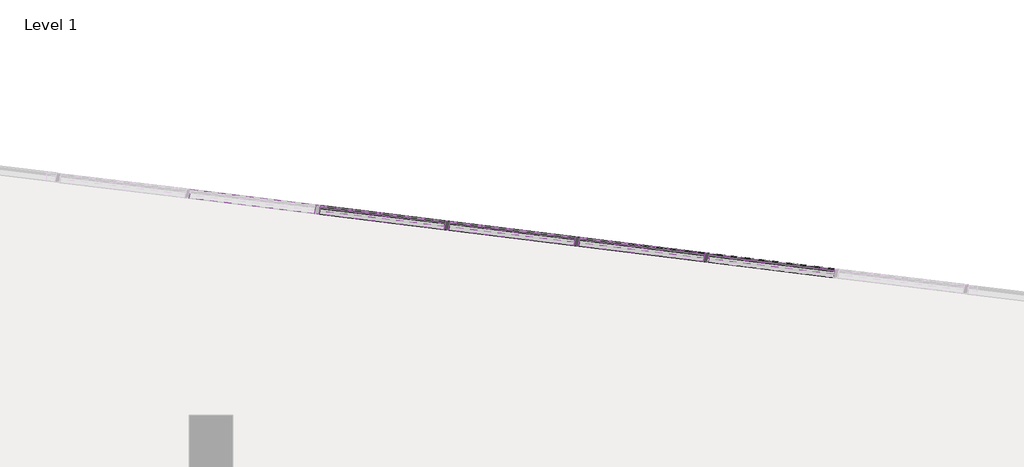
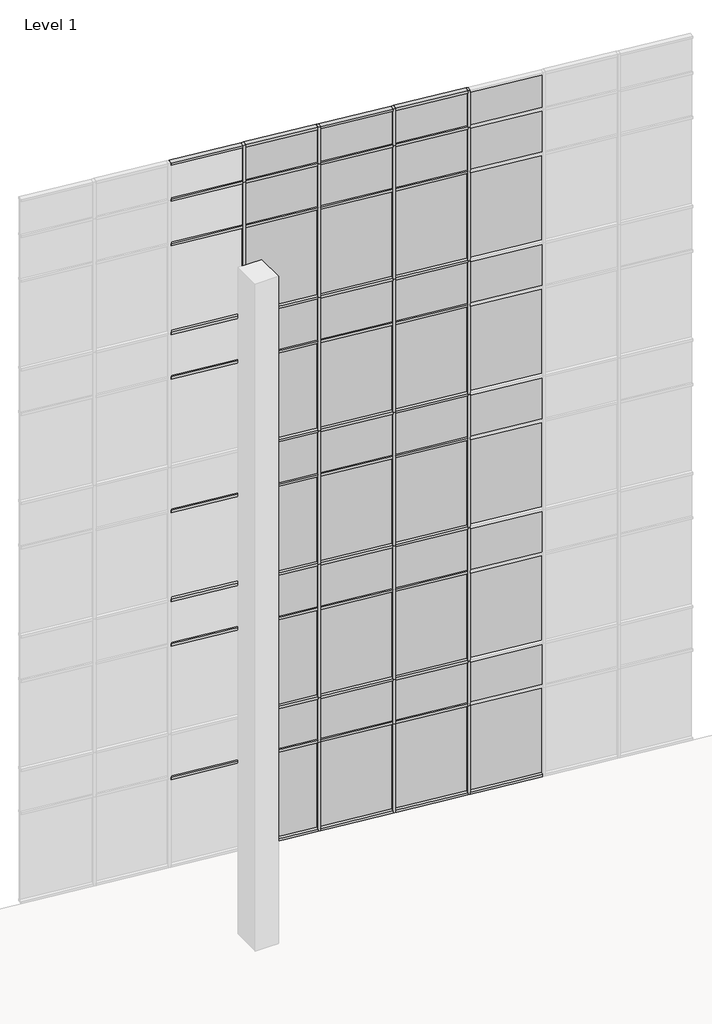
# One storey, part 19 of 23: 73 members, 44 plates.
"""IFC4 building model written with IfcOpenShell, lengths in millimetres."""

from ifc_helpers import new_model, si_unit, origin, place, context, project, spatial, transform, mapped, element, save
from components import member_2b49869a, member_f92b8aa2, member_810865a4, member_f0fea5a5, member_6d5c3e5e, member_9764dd38, system_panel_glazed_14c75400, system_panel_solid_5dfe6f83, system_panel_solid_e25e2004, system_panel_solid_b7551183

model = new_model("IFC4")

# Units and contexts
model_context = context("Model", 3, world=origin())
ifc_project = project(units=[si_unit("LENGTHUNIT", "METRE", prefix="MILLI")], contexts=[model_context])

# Site, building, storey
site = spatial("IfcSite", under=ifc_project)
building = spatial("IfcBuilding", under=site)
storey = spatial("IfcBuildingStorey", under=building, Name="Level 1", Elevation=0.0)

# Members
placement = place(None, origin())
member_shape = member_2b49869a(model_context)
element("IfcMember", 1, ObjectType="Rectangular Mullion : 2.5\" x 5\" rectangular", at=placement, inside=storey, context=model_context, shape_type="MappedRepresentation", body=[
    mapped(member_shape, transform((-5700.4995571, 12571.2945117, 2438.4), x_axis=(0.9925461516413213, -0.12186934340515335, 0.0), y_axis=(-0.12186934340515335, -0.9925461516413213, 0.0), z_axis=(0.0, 0.0, -1.0))),
])
element("IfcMember", 2, ObjectType="Rectangular Mullion : 2.5\" x 5\" rectangular", at=placement, inside=storey, context=model_context, shape_type="MappedRepresentation", body=[
    mapped(member_shape, transform((-2070.1627529, 12125.5452013, 2438.4), x_axis=(0.9925461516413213, -0.12186934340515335, 0.0), y_axis=(-0.12186934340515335, -0.9925461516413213, 0.0), z_axis=(0.0, 0.0, -1.0))),
])
element("IfcMember", 3, ObjectType="Rectangular Mullion : 2.5\" x 5\" rectangular", at=placement, inside=storey, context=model_context, shape_type="MappedRepresentation", body=[
    mapped(member_shape, transform((-3885.331155, 12348.4198565, 2438.4), x_axis=(0.9925461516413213, -0.12186934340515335, 0.0), y_axis=(-0.12186934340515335, -0.9925461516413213, 0.0), z_axis=(0.0, 0.0, -1.0))),
])
member_2_shape = member_f92b8aa2(model_context)
element("IfcMember", 4, ObjectType="Rectangular Mullion : 2.5\" x 5\" rectangular", at=placement, inside=storey, context=model_context, shape_type="MappedRepresentation", body=[
    mapped(member_2_shape, transform((-5700.4995571, 12571.2945117, 18288.0), x_axis=(0.9925461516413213, -0.12186934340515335, 0.0), y_axis=(-0.12186934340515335, -0.9925461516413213, 0.0), z_axis=(0.0, 0.0, -1.0))),
])
element("IfcMember", 5, ObjectType="Rectangular Mullion : 2.5\" x 5\" rectangular", at=placement, inside=storey, context=model_context, shape_type="MappedRepresentation", body=[
    mapped(member_2_shape, transform((-7515.6679592, 12794.169167, 18288.0), x_axis=(0.9925461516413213, -0.12186934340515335, 0.0), y_axis=(-0.12186934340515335, -0.9925461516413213, 0.0), z_axis=(0.0, 0.0, -1.0))),
])
element("IfcMember", 6, ObjectType="Rectangular Mullion : 2.5\" x 5\" rectangular", at=placement, inside=storey, context=model_context, shape_type="MappedRepresentation", body=[
    mapped(member_2_shape, transform((-2070.1627529, 12125.5452013, 18288.0), x_axis=(0.9925461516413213, -0.12186934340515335, 0.0), y_axis=(-0.12186934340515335, -0.9925461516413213, 0.0), z_axis=(0.0, 0.0, -1.0))),
])
element("IfcMember", 7, ObjectType="Rectangular Mullion : 2.5\" x 5\" rectangular", at=placement, inside=storey, context=model_context, shape_type="MappedRepresentation", body=[
    mapped(member_2_shape, transform((-3885.331155, 12348.4198565, 18288.0), x_axis=(0.9925461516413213, -0.12186934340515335, 0.0), y_axis=(-0.12186934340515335, -0.9925461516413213, 0.0), z_axis=(0.0, 0.0, -1.0))),
])
member_3_shape = member_810865a4(model_context)
element("IfcMember", 8, ObjectType="Rectangular Mullion : 2.5\" x 5\" rectangular", at=placement, inside=storey, context=model_context, shape_type="MappedRepresentation", body=[
    mapped(member_3_shape, transform((-3885.331155, 12348.4198565, 7315.2), x_axis=(0.9925461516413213, -0.12186934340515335, 0.0), y_axis=(-0.12186934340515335, -0.9925461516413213, 0.0), z_axis=(0.0, 0.0, -1.0))),
])
element("IfcMember", 9, ObjectType="Rectangular Mullion : 2.5\" x 5\" rectangular", at=placement, inside=storey, context=model_context, shape_type="MappedRepresentation", body=[
    mapped(member_3_shape, transform((-3885.331155, 12348.4198565, 3657.6), x_axis=(0.9925461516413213, -0.12186934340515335, 0.0), y_axis=(-0.12186934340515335, -0.9925461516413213, 0.0), z_axis=(0.0, 0.0, -1.0))),
])
element("IfcMember", 10, ObjectType="Rectangular Mullion : 2.5\" x 5\" rectangular", at=placement, inside=storey, context=model_context, shape_type="MappedRepresentation", body=[
    mapped(member_3_shape, transform((-5700.4995571, 12571.2945117, 14630.4), x_axis=(0.9925461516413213, -0.12186934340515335, 0.0), y_axis=(-0.12186934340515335, -0.9925461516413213, 0.0), z_axis=(0.0, 0.0, -1.0))),
])
element("IfcMember", 11, ObjectType="Rectangular Mullion : 2.5\" x 5\" rectangular", at=placement, inside=storey, context=model_context, shape_type="MappedRepresentation", body=[
    mapped(member_3_shape, transform((-5700.4995571, 12571.2945117, 10972.8), x_axis=(0.9925461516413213, -0.12186934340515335, 0.0), y_axis=(-0.12186934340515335, -0.9925461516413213, 0.0), z_axis=(0.0, 0.0, -1.0))),
])
element("IfcMember", 12, ObjectType="Rectangular Mullion : 2.5\" x 5\" rectangular", at=placement, inside=storey, context=model_context, shape_type="MappedRepresentation", body=[
    mapped(member_3_shape, transform((-5700.4995571, 12571.2945117, 7315.2), x_axis=(0.9925461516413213, -0.12186934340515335, 0.0), y_axis=(-0.12186934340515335, -0.9925461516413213, 0.0), z_axis=(0.0, 0.0, -1.0))),
])
element("IfcMember", 13, ObjectType="Rectangular Mullion : 2.5\" x 5\" rectangular", at=placement, inside=storey, context=model_context, shape_type="MappedRepresentation", body=[
    mapped(member_3_shape, transform((-5700.4995571, 12571.2945117, 3657.6), x_axis=(0.9925461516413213, -0.12186934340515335, 0.0), y_axis=(-0.12186934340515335, -0.9925461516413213, 0.0), z_axis=(0.0, 0.0, -1.0))),
])
element("IfcMember", 14, ObjectType="Rectangular Mullion : 2.5\" x 5\" rectangular", at=placement, inside=storey, context=model_context, shape_type="MappedRepresentation", body=[
    mapped(member_3_shape, transform((-7515.6679592, 12794.169167, 14630.4), x_axis=(0.9925461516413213, -0.12186934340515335, 0.0), y_axis=(-0.12186934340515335, -0.9925461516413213, 0.0), z_axis=(0.0, 0.0, -1.0))),
])
element("IfcMember", 15, ObjectType="Rectangular Mullion : 2.5\" x 5\" rectangular", at=placement, inside=storey, context=model_context, shape_type="MappedRepresentation", body=[
    mapped(member_3_shape, transform((-7515.6679592, 12794.169167, 10972.8), x_axis=(0.9925461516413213, -0.12186934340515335, 0.0), y_axis=(-0.12186934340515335, -0.9925461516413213, 0.0), z_axis=(0.0, 0.0, -1.0))),
])
element("IfcMember", 16, ObjectType="Rectangular Mullion : 2.5\" x 5\" rectangular", at=placement, inside=storey, context=model_context, shape_type="MappedRepresentation", body=[
    mapped(member_3_shape, transform((-7515.6679592, 12794.169167, 7315.2), x_axis=(0.9925461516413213, -0.12186934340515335, 0.0), y_axis=(-0.12186934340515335, -0.9925461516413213, 0.0), z_axis=(0.0, 0.0, -1.0))),
])
element("IfcMember", 17, ObjectType="Rectangular Mullion : 2.5\" x 5\" rectangular", at=placement, inside=storey, context=model_context, shape_type="MappedRepresentation", body=[
    mapped(member_3_shape, transform((-7515.6679592, 12794.169167, 3657.6), x_axis=(0.9925461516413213, -0.12186934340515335, 0.0), y_axis=(-0.12186934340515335, -0.9925461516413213, 0.0), z_axis=(0.0, 0.0, -1.0))),
])
element("IfcMember", 18, ObjectType="Rectangular Mullion : 2.5\" x 5\" rectangular", at=placement, inside=storey, context=model_context, shape_type="MappedRepresentation", body=[
    mapped(member_3_shape, transform((-2070.1627529, 12125.5452013, 14630.4), x_axis=(0.9925461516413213, -0.12186934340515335, 0.0), y_axis=(-0.12186934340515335, -0.9925461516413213, 0.0), z_axis=(0.0, 0.0, -1.0))),
])
element("IfcMember", 19, ObjectType="Rectangular Mullion : 2.5\" x 5\" rectangular", at=placement, inside=storey, context=model_context, shape_type="MappedRepresentation", body=[
    mapped(member_3_shape, transform((-2070.1627529, 12125.5452013, 10972.8), x_axis=(0.9925461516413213, -0.12186934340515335, 0.0), y_axis=(-0.12186934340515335, -0.9925461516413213, 0.0), z_axis=(0.0, 0.0, -1.0))),
])
element("IfcMember", 20, ObjectType="Rectangular Mullion : 2.5\" x 5\" rectangular", at=placement, inside=storey, context=model_context, shape_type="MappedRepresentation", body=[
    mapped(member_3_shape, transform((-2070.1627529, 12125.5452013, 7315.2), x_axis=(0.9925461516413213, -0.12186934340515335, 0.0), y_axis=(-0.12186934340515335, -0.9925461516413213, 0.0), z_axis=(0.0, 0.0, -1.0))),
])
element("IfcMember", 21, ObjectType="Rectangular Mullion : 2.5\" x 5\" rectangular", at=placement, inside=storey, context=model_context, shape_type="MappedRepresentation", body=[
    mapped(member_3_shape, transform((-2070.1627529, 12125.5452013, 3657.6), x_axis=(0.9925461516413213, -0.12186934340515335, 0.0), y_axis=(-0.12186934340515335, -0.9925461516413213, 0.0), z_axis=(0.0, 0.0, -1.0))),
])
element("IfcMember", 22, ObjectType="Rectangular Mullion : 2.5\" x 5\" rectangular", at=placement, inside=storey, context=model_context, shape_type="MappedRepresentation", body=[
    mapped(member_3_shape, transform((-3885.331155, 12348.4198565, 14630.4), x_axis=(0.9925461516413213, -0.12186934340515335, 0.0), y_axis=(-0.12186934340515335, -0.9925461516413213, 0.0), z_axis=(0.0, 0.0, -1.0))),
])
element("IfcMember", 23, ObjectType="Rectangular Mullion : 2.5\" x 5\" rectangular", at=placement, inside=storey, context=model_context, shape_type="MappedRepresentation", body=[
    mapped(member_3_shape, transform((-3885.331155, 12348.4198565, 10972.8), x_axis=(0.9925461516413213, -0.12186934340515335, 0.0), y_axis=(-0.12186934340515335, -0.9925461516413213, 0.0), z_axis=(0.0, 0.0, -1.0))),
])
member_4_shape = member_f0fea5a5(model_context)
element("IfcMember", 24, ObjectType="Rectangular Mullion : 2.5\" x 5\" rectangular", at=placement, inside=storey, context=model_context, shape_type="MappedRepresentation", body=[
    mapped(member_4_shape, transform((-3885.331155, 12348.4198565, 0.0), x_axis=(0.9925461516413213, -0.12186934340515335, 0.0), y_axis=(-0.12186934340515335, -0.9925461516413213, 0.0), z_axis=(0.0, 0.0, -1.0))),
])
element("IfcMember", 25, ObjectType="Rectangular Mullion : 2.5\" x 5\" rectangular", at=placement, inside=storey, context=model_context, shape_type="MappedRepresentation", body=[
    mapped(member_4_shape, transform((-5700.4995571, 12571.2945117, 0.0), x_axis=(0.9925461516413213, -0.12186934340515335, 0.0), y_axis=(-0.12186934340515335, -0.9925461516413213, 0.0), z_axis=(0.0, 0.0, -1.0))),
])
element("IfcMember", 26, ObjectType="Rectangular Mullion : 2.5\" x 5\" rectangular", at=placement, inside=storey, context=model_context, shape_type="MappedRepresentation", body=[
    mapped(member_4_shape, transform((-2070.1627529, 12125.5452013, 0.0), x_axis=(0.9925461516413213, -0.12186934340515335, 0.0), y_axis=(-0.12186934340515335, -0.9925461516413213, 0.0), z_axis=(0.0, 0.0, -1.0))),
])
element("IfcMember", 27, ObjectType="Rectangular Mullion : 2.5\" x 5\" rectangular", at=placement, inside=storey, context=model_context, shape_type="MappedRepresentation", body=[
    mapped(member_shape, transform((-7515.6679592, 12794.169167, 2438.4), x_axis=(0.9925461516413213, -0.12186934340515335, 0.0), y_axis=(-0.12186934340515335, -0.9925461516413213, 0.0), z_axis=(0.0, 0.0, -1.0))),
])
member_5_shape = member_6d5c3e5e(model_context)
element("IfcMember", 28, ObjectType="Rectangular Mullion : 2.5\" x 5\" rectangular", at=placement, inside=storey, context=model_context, shape_type="MappedRepresentation", body=[
    mapped(member_5_shape, transform((-2101.6760932, 12129.414553, 19304.0), x_axis=(0.0, 0.0, 1.0), y_axis=(-0.12186934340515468, -0.9925461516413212, 0.0), z_axis=(0.9925461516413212, -0.12186934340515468, 0.0))),
])
element("IfcMember", 29, ObjectType="Rectangular Mullion : 2.5\" x 5\" rectangular", at=placement, inside=storey, context=model_context, shape_type="MappedRepresentation", body=[
    mapped(member_5_shape, transform((-3916.8444953, 12352.2892082, 19304.0), x_axis=(0.0, 0.0, 1.0), y_axis=(-0.12186934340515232, -0.9925461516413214, 0.0), z_axis=(0.9925461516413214, -0.12186934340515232, 0.0))),
])
element("IfcMember", 30, ObjectType="Rectangular Mullion : 2.5\" x 5\" rectangular", at=placement, inside=storey, context=model_context, shape_type="MappedRepresentation", body=[
    mapped(member_5_shape, transform((-5732.0128974, 12575.1638634, 19304.0), x_axis=(0.0, 0.0, 1.0), y_axis=(-0.12186934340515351, -0.9925461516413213, 0.0), z_axis=(0.9925461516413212, -0.1218693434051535, 0.0))),
])
element("IfcMember", 31, ObjectType="Rectangular Mullion : 2.5\" x 5\" rectangular", at=placement, inside=storey, context=model_context, shape_type="MappedRepresentation", body=[
    mapped(member_5_shape, transform((-7547.1812995, 12798.0385186, 19304.0), x_axis=(0.0, 0.0, 1.0), y_axis=(-0.12186934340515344, -0.9925461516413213, 0.0), z_axis=(0.9925461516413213, -0.12186934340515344, 0.0))),
])
member_6_shape = member_9764dd38(model_context)
element("IfcMember", 32, ObjectType="Rectangular Mullion : 2.5\" x 5\" rectangular", at=placement, inside=storey, context=model_context, shape_type="MappedRepresentation", body=[
    mapped(member_6_shape, transform((-2101.6760932, 12129.414553, 17068.8), x_axis=(0.0, 0.0, 1.0), y_axis=(-0.12186934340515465, -0.9925461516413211, 0.0), z_axis=(0.9925461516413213, -0.12186934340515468, 0.0))),
])
element("IfcMember", 33, ObjectType="Rectangular Mullion : 2.5\" x 5\" rectangular", at=placement, inside=storey, context=model_context, shape_type="MappedRepresentation", body=[
    mapped(member_6_shape, transform((-3916.8444953, 12352.2892082, 17068.8), x_axis=(0.0, 0.0, 1.0), y_axis=(-0.1218693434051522, -0.9925461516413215, 0.0), z_axis=(0.9925461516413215, -0.1218693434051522, 0.0))),
])
element("IfcMember", 34, ObjectType="Rectangular Mullion : 2.5\" x 5\" rectangular", at=placement, inside=storey, context=model_context, shape_type="MappedRepresentation", body=[
    mapped(member_6_shape, transform((-5732.0128974, 12575.1638634, 17068.8), x_axis=(0.0, 0.0, 1.0), y_axis=(-0.12186934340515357, -0.9925461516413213, 0.0), z_axis=(0.9925461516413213, -0.12186934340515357, 0.0))),
])
element("IfcMember", 35, ObjectType="Rectangular Mullion : 2.5\" x 5\" rectangular", at=placement, inside=storey, context=model_context, shape_type="MappedRepresentation", body=[
    mapped(member_6_shape, transform((-7547.1812995, 12798.0385186, 17068.8), x_axis=(0.0, 0.0, 1.0), y_axis=(-0.12186934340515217, -0.9925461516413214, 0.0), z_axis=(0.9925461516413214, -0.12186934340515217, 0.0))),
])
element("IfcMember", 36, ObjectType="Rectangular Mullion : 2.5\" x 5\" rectangular", at=placement, inside=storey, context=model_context, shape_type="MappedRepresentation", body=[
    mapped(member_6_shape, transform((-2101.6760932, 12129.414553, 13411.2), x_axis=(0.0, 0.0, 1.0), y_axis=(-0.12186934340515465, -0.9925461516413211, 0.0), z_axis=(0.9925461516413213, -0.12186934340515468, 0.0))),
])
element("IfcMember", 37, ObjectType="Rectangular Mullion : 2.5\" x 5\" rectangular", at=placement, inside=storey, context=model_context, shape_type="MappedRepresentation", body=[
    mapped(member_6_shape, transform((-3916.8444953, 12352.2892082, 13411.2), x_axis=(0.0, 0.0, 1.0), y_axis=(-0.1218693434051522, -0.9925461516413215, 0.0), z_axis=(0.9925461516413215, -0.1218693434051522, 0.0))),
])
element("IfcMember", 38, ObjectType="Rectangular Mullion : 2.5\" x 5\" rectangular", at=placement, inside=storey, context=model_context, shape_type="MappedRepresentation", body=[
    mapped(member_6_shape, transform((-5732.0128974, 12575.1638634, 13411.2), x_axis=(0.0, 0.0, 1.0), y_axis=(-0.12186934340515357, -0.9925461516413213, 0.0), z_axis=(0.9925461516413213, -0.12186934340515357, 0.0))),
])
element("IfcMember", 39, ObjectType="Rectangular Mullion : 2.5\" x 5\" rectangular", at=placement, inside=storey, context=model_context, shape_type="MappedRepresentation", body=[
    mapped(member_6_shape, transform((-7547.1812995, 12798.0385186, 13411.2), x_axis=(0.0, 0.0, 1.0), y_axis=(-0.12186934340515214, -0.9925461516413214, 0.0), z_axis=(0.9925461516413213, -0.12186934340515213, 0.0))),
])
element("IfcMember", 40, ObjectType="Rectangular Mullion : 2.5\" x 5\" rectangular", at=placement, inside=storey, context=model_context, shape_type="MappedRepresentation", body=[
    mapped(member_6_shape, transform((-2101.6760932, 12129.414553, 9753.6), x_axis=(0.0, 0.0, 1.0), y_axis=(-0.12186934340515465, -0.9925461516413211, 0.0), z_axis=(0.9925461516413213, -0.12186934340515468, 0.0))),
])
element("IfcMember", 41, ObjectType="Rectangular Mullion : 2.5\" x 5\" rectangular", at=placement, inside=storey, context=model_context, shape_type="MappedRepresentation", body=[
    mapped(member_6_shape, transform((-3916.8444953, 12352.2892082, 9753.6), x_axis=(0.0, 0.0, 1.0), y_axis=(-0.12186934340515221, -0.9925461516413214, 0.0), z_axis=(0.9925461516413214, -0.12186934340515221, 0.0))),
])
element("IfcMember", 42, ObjectType="Rectangular Mullion : 2.5\" x 5\" rectangular", at=placement, inside=storey, context=model_context, shape_type="MappedRepresentation", body=[
    mapped(member_6_shape, transform((-5732.0128974, 12575.1638634, 9753.6), x_axis=(0.0, 0.0, 1.0), y_axis=(-0.12186934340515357, -0.9925461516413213, 0.0), z_axis=(0.9925461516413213, -0.12186934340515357, 0.0))),
])
element("IfcMember", 43, ObjectType="Rectangular Mullion : 2.5\" x 5\" rectangular", at=placement, inside=storey, context=model_context, shape_type="MappedRepresentation", body=[
    mapped(member_6_shape, transform((-7547.1812995, 12798.0385186, 9753.6), x_axis=(0.0, 0.0, 1.0), y_axis=(-0.12186934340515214, -0.9925461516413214, 0.0), z_axis=(0.9925461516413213, -0.12186934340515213, 0.0))),
])
element("IfcMember", 44, ObjectType="Rectangular Mullion : 2.5\" x 5\" rectangular", at=placement, inside=storey, context=model_context, shape_type="MappedRepresentation", body=[
    mapped(member_6_shape, transform((-2101.6760932, 12129.414553, 6096.0), x_axis=(0.0, 0.0, 1.0), y_axis=(-0.12186934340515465, -0.9925461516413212, 0.0), z_axis=(0.9925461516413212, -0.12186934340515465, 0.0))),
])
element("IfcMember", 45, ObjectType="Rectangular Mullion : 2.5\" x 5\" rectangular", at=placement, inside=storey, context=model_context, shape_type="MappedRepresentation", body=[
    mapped(member_6_shape, transform((-3916.8444953, 12352.2892082, 6096.0), x_axis=(0.0, 0.0, 1.0), y_axis=(-0.12186934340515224, -0.9925461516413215, 0.0), z_axis=(0.9925461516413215, -0.12186934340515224, 0.0))),
])
element("IfcMember", 46, ObjectType="Rectangular Mullion : 2.5\" x 5\" rectangular", at=placement, inside=storey, context=model_context, shape_type="MappedRepresentation", body=[
    mapped(member_6_shape, transform((-5732.0128974, 12575.1638634, 6096.0), x_axis=(0.0, 0.0, 1.0), y_axis=(-0.12186934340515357, -0.9925461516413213, 0.0), z_axis=(0.9925461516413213, -0.12186934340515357, 0.0))),
])
element("IfcMember", 47, ObjectType="Rectangular Mullion : 2.5\" x 5\" rectangular", at=placement, inside=storey, context=model_context, shape_type="MappedRepresentation", body=[
    mapped(member_6_shape, transform((-7547.1812995, 12798.0385186, 6096.0), x_axis=(0.0, 0.0, 1.0), y_axis=(-0.12186934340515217, -0.9925461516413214, 0.0), z_axis=(0.9925461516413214, -0.12186934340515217, 0.0))),
])
element("IfcMember", 48, ObjectType="Rectangular Mullion : 2.5\" x 5\" rectangular", at=placement, inside=storey, context=model_context, shape_type="MappedRepresentation", body=[
    mapped(member_6_shape, transform((-2101.6760932, 12129.414553, 2470.15), x_axis=(0.0, 0.0, 1.0), y_axis=(-0.12186934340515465, -0.9925461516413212, 0.0), z_axis=(0.9925461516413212, -0.12186934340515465, 0.0))),
])
element("IfcMember", 49, ObjectType="Rectangular Mullion : 2.5\" x 5\" rectangular", at=placement, inside=storey, context=model_context, shape_type="MappedRepresentation", body=[
    mapped(member_6_shape, transform((-3916.8444953, 12352.2892082, 2470.15), x_axis=(0.0, 0.0, 1.0), y_axis=(-0.12186934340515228, -0.9925461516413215, 0.0), z_axis=(0.9925461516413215, -0.12186934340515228, 0.0))),
])
element("IfcMember", 50, ObjectType="Rectangular Mullion : 2.5\" x 5\" rectangular", at=placement, inside=storey, context=model_context, shape_type="MappedRepresentation", body=[
    mapped(member_6_shape, transform((-5732.0128974, 12575.1638634, 2470.15), x_axis=(0.0, 0.0, 1.0), y_axis=(-0.12186934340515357, -0.9925461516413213, 0.0), z_axis=(0.9925461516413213, -0.12186934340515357, 0.0))),
])
element("IfcMember", 51, ObjectType="Rectangular Mullion : 2.5\" x 5\" rectangular", at=placement, inside=storey, context=model_context, shape_type="MappedRepresentation", body=[
    mapped(member_5_shape, transform((-2038.6494126, 12121.6758497, 0.0), x_axis=(0.0, 0.0, -1.0), y_axis=(-0.12186934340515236, -0.9925461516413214, 0.0), z_axis=(-0.9925461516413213, 0.12186934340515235, 0.0))),
])
element("IfcMember", 52, ObjectType="Rectangular Mullion : 2.5\" x 5\" rectangular", at=placement, inside=storey, context=model_context, shape_type="MappedRepresentation", body=[
    mapped(member_5_shape, transform((-3853.8178147, 12344.5505049, 0.0), x_axis=(0.0, 0.0, -1.0), y_axis=(-0.12186934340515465, -0.9925461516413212, 0.0), z_axis=(-0.9925461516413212, 0.12186934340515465, 0.0))),
])
element("IfcMember", 53, ObjectType="Rectangular Mullion : 2.5\" x 5\" rectangular", at=placement, inside=storey, context=model_context, shape_type="MappedRepresentation", body=[
    mapped(member_5_shape, transform((-5668.9862168, 12567.4251601, 0.0), x_axis=(0.0, 0.0, -1.0), y_axis=(-0.12186934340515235, -0.9925461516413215, 0.0), z_axis=(-0.9925461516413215, 0.12186934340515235, 0.0))),
])
element("IfcMember", 54, ObjectType="Rectangular Mullion : 2.5\" x 5\" rectangular", at=placement, inside=storey, context=model_context, shape_type="MappedRepresentation", body=[
    mapped(member_5_shape, transform((-7484.1546189, 12790.2998153, 0.0), x_axis=(0.0, 0.0, -1.0), y_axis=(-0.12186934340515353, -0.9925461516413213, 0.0), z_axis=(-0.9925461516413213, 0.12186934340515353, 0.0))),
])
element("IfcMember", 55, ObjectType="Rectangular Mullion : 2.5\" x 5\" rectangular", at=placement, inside=storey, context=model_context, shape_type="MappedRepresentation", body=[
    mapped(member_6_shape, transform((-2101.6760932, 12129.414553, 3657.6), x_axis=(0.0, 0.0, 1.0), y_axis=(-0.12186934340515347, -0.9925461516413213, 0.0), z_axis=(0.9925461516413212, -0.12186934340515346, 0.0))),
])
element("IfcMember", 56, ObjectType="Rectangular Mullion : 2.5\" x 5\" rectangular", at=placement, inside=storey, context=model_context, shape_type="MappedRepresentation", body=[
    mapped(member_6_shape, transform((-3916.8444953, 12352.2892082, 3657.6), x_axis=(0.0, 0.0, 1.0), y_axis=(-0.12186934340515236, -0.9925461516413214, 0.0), z_axis=(0.9925461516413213, -0.12186934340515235, 0.0))),
])
element("IfcMember", 57, ObjectType="Rectangular Mullion : 2.5\" x 5\" rectangular", at=placement, inside=storey, context=model_context, shape_type="MappedRepresentation", body=[
    mapped(member_6_shape, transform((-5732.0128974, 12575.1638634, 3657.6), x_axis=(0.0, 0.0, 1.0), y_axis=(-0.12186934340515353, -0.9925461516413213, 0.0), z_axis=(0.9925461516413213, -0.12186934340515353, 0.0))),
])
element("IfcMember", 58, ObjectType="Rectangular Mullion : 2.5\" x 5\" rectangular", at=placement, inside=storey, context=model_context, shape_type="MappedRepresentation", body=[
    mapped(member_6_shape, transform((-2101.6760932, 12129.414553, 10972.8), x_axis=(0.0, 0.0, 1.0), y_axis=(-0.12186934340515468, -0.9925461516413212, 0.0), z_axis=(0.9925461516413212, -0.12186934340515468, 0.0))),
])
element("IfcMember", 59, ObjectType="Rectangular Mullion : 2.5\" x 5\" rectangular", at=placement, inside=storey, context=model_context, shape_type="MappedRepresentation", body=[
    mapped(member_6_shape, transform((-3916.8444953, 12352.2892082, 10972.8), x_axis=(0.0, 0.0, 1.0), y_axis=(-0.12186934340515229, -0.9925461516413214, 0.0), z_axis=(0.9925461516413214, -0.12186934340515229, 0.0))),
])
element("IfcMember", 60, ObjectType="Rectangular Mullion : 2.5\" x 5\" rectangular", at=placement, inside=storey, context=model_context, shape_type="MappedRepresentation", body=[
    mapped(member_6_shape, transform((-5732.0128974, 12575.1638634, 10972.8), x_axis=(0.0, 0.0, 1.0), y_axis=(-0.12186934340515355, -0.9925461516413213, 0.0), z_axis=(0.9925461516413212, -0.12186934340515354, 0.0))),
])
element("IfcMember", 61, ObjectType="Rectangular Mullion : 2.5\" x 5\" rectangular", at=placement, inside=storey, context=model_context, shape_type="MappedRepresentation", body=[
    mapped(member_6_shape, transform((-2101.6760932, 12129.414553, 14630.4), x_axis=(0.0, 0.0, 1.0), y_axis=(-0.12186934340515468, -0.9925461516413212, 0.0), z_axis=(0.9925461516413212, -0.12186934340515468, 0.0))),
])
element("IfcMember", 62, ObjectType="Rectangular Mullion : 2.5\" x 5\" rectangular", at=placement, inside=storey, context=model_context, shape_type="MappedRepresentation", body=[
    mapped(member_6_shape, transform((-3916.8444953, 12352.2892082, 14630.4), x_axis=(0.0, 0.0, 1.0), y_axis=(-0.12186934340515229, -0.9925461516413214, 0.0), z_axis=(0.9925461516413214, -0.12186934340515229, 0.0))),
])
element("IfcMember", 63, ObjectType="Rectangular Mullion : 2.5\" x 5\" rectangular", at=placement, inside=storey, context=model_context, shape_type="MappedRepresentation", body=[
    mapped(member_6_shape, transform((-5732.0128974, 12575.1638634, 14630.4), x_axis=(0.0, 0.0, 1.0), y_axis=(-0.12186934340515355, -0.9925461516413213, 0.0), z_axis=(0.9925461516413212, -0.12186934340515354, 0.0))),
])
element("IfcMember", 64, ObjectType="Rectangular Mullion : 2.5\" x 5\" rectangular", at=placement, inside=storey, context=model_context, shape_type="MappedRepresentation", body=[
    mapped(member_6_shape, transform((-7547.1812995, 12798.0385186, 14630.4), x_axis=(0.0, 0.0, 1.0), y_axis=(-0.12186934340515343, -0.9925461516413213, 0.0), z_axis=(0.9925461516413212, -0.12186934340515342, 0.0))),
])
element("IfcMember", 65, ObjectType="Rectangular Mullion : 2.5\" x 5\" rectangular", at=placement, inside=storey, context=model_context, shape_type="MappedRepresentation", body=[
    mapped(member_6_shape, transform((-2101.6760932, 12129.414553, 7315.2), x_axis=(0.0, 0.0, 1.0), y_axis=(-0.12186934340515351, -0.9925461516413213, 0.0), z_axis=(0.9925461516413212, -0.1218693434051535, 0.0))),
])
element("IfcMember", 66, ObjectType="Rectangular Mullion : 2.5\" x 5\" rectangular", at=placement, inside=storey, context=model_context, shape_type="MappedRepresentation", body=[
    mapped(member_6_shape, transform((-3916.8444953, 12352.2892082, 7315.2), x_axis=(0.0, 0.0, 1.0), y_axis=(-0.12186934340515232, -0.9925461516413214, 0.0), z_axis=(0.9925461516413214, -0.12186934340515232, 0.0))),
])
element("IfcMember", 67, ObjectType="Rectangular Mullion : 2.5\" x 5\" rectangular", at=placement, inside=storey, context=model_context, shape_type="MappedRepresentation", body=[
    mapped(member_6_shape, transform((-5732.0128974, 12575.1638634, 7315.2), x_axis=(0.0, 0.0, 1.0), y_axis=(-0.12186934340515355, -0.9925461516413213, 0.0), z_axis=(0.9925461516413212, -0.12186934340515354, 0.0))),
])
element("IfcMember", 68, ObjectType="Rectangular Mullion : 2.5\" x 5\" rectangular", at=placement, inside=storey, context=model_context, shape_type="MappedRepresentation", body=[
    mapped(member_6_shape, transform((-7547.1812995, 12798.0385186, 7315.2), x_axis=(0.0, 0.0, 1.0), y_axis=(-0.12186934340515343, -0.9925461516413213, 0.0), z_axis=(0.9925461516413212, -0.12186934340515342, 0.0))),
])
element("IfcMember", 69, ObjectType="Rectangular Mullion : 2.5\" x 5\" rectangular", at=placement, inside=storey, context=model_context, shape_type="MappedRepresentation", body=[
    mapped(member_6_shape, transform((-7547.1812995, 12798.0385186, 2438.4), x_axis=(0.0, 0.0, 1.0), y_axis=(-0.12186934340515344, -0.9925461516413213, 0.0), z_axis=(0.9925461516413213, -0.12186934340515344, 0.0))),
])
element("IfcMember", 70, ObjectType="Rectangular Mullion : 2.5\" x 5\" rectangular", at=placement, inside=storey, context=model_context, shape_type="MappedRepresentation", body=[
    mapped(member_6_shape, transform((-2101.6760932, 12129.414553, 18288.0), x_axis=(0.0, 0.0, 1.0), y_axis=(-0.12186934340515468, -0.9925461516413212, 0.0), z_axis=(0.9925461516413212, -0.12186934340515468, 0.0))),
])
element("IfcMember", 71, ObjectType="Rectangular Mullion : 2.5\" x 5\" rectangular", at=placement, inside=storey, context=model_context, shape_type="MappedRepresentation", body=[
    mapped(member_6_shape, transform((-3916.8444953, 12352.2892082, 18288.0), x_axis=(0.0, 0.0, 1.0), y_axis=(-0.12186934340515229, -0.9925461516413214, 0.0), z_axis=(0.9925461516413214, -0.12186934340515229, 0.0))),
])
element("IfcMember", 72, ObjectType="Rectangular Mullion : 2.5\" x 5\" rectangular", at=placement, inside=storey, context=model_context, shape_type="MappedRepresentation", body=[
    mapped(member_6_shape, transform((-5732.0128974, 12575.1638634, 18288.0), x_axis=(0.0, 0.0, 1.0), y_axis=(-0.12186934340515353, -0.9925461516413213, 0.0), z_axis=(0.9925461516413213, -0.12186934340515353, 0.0))),
])
element("IfcMember", 73, ObjectType="Rectangular Mullion : 2.5\" x 5\" rectangular", at=placement, inside=storey, context=model_context, shape_type="MappedRepresentation", body=[
    mapped(member_6_shape, transform((-7547.1812995, 12798.0385186, 18288.0), x_axis=(0.0, 0.0, 1.0), y_axis=(-0.12186934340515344, -0.9925461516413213, 0.0), z_axis=(0.9925461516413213, -0.12186934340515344, 0.0))),
])

# Plates
system_panel_glazed_shape = system_panel_glazed_14c75400(model_context)
element("IfcPlate", 74, ObjectType="System Panel : Glazed", at=placement, inside=storey, context=model_context, shape_type="MappedRepresentation", body=[
    mapped(system_panel_glazed_shape, transform((-1162.5785518, 12014.1078737, 14662.15), x_axis=(0.9925461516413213, -0.12186934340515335, 0.0), y_axis=(0.12186934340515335, 0.9925461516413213, 0.0), z_axis=(0.0, 0.0, 1.0))),
])
element("IfcPlate", 75, ObjectType="System Panel : Glazed", at=placement, inside=storey, context=model_context, shape_type="MappedRepresentation", body=[
    mapped(system_panel_glazed_shape, transform((-2977.7469539, 12236.9825289, 14662.15), x_axis=(0.9925461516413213, -0.12186934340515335, 0.0), y_axis=(0.12186934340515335, 0.9925461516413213, 0.0), z_axis=(0.0, 0.0, 1.0))),
])
element("IfcPlate", 76, ObjectType="System Panel : Glazed", at=placement, inside=storey, context=model_context, shape_type="MappedRepresentation", body=[
    mapped(system_panel_glazed_shape, transform((-4792.9153561, 12459.8571841, 14662.15), x_axis=(0.9925461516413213, -0.12186934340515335, 0.0), y_axis=(0.12186934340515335, 0.9925461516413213, 0.0), z_axis=(0.0, 0.0, 1.0))),
])
element("IfcPlate", 77, ObjectType="System Panel : Glazed", at=placement, inside=storey, context=model_context, shape_type="MappedRepresentation", body=[
    mapped(system_panel_glazed_shape, transform((-6608.0837582, 12682.7318394, 14662.15), x_axis=(0.9925461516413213, -0.12186934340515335, 0.0), y_axis=(0.12186934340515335, 0.9925461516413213, 0.0), z_axis=(0.0, 0.0, 1.0))),
])
element("IfcPlate", 78, ObjectType="System Panel : Glazed", at=placement, inside=storey, context=model_context, shape_type="MappedRepresentation", body=[
    mapped(system_panel_glazed_shape, transform((-1162.5785518, 12014.1078737, 11004.55), x_axis=(0.9925461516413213, -0.12186934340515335, 0.0), y_axis=(0.12186934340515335, 0.9925461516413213, 0.0), z_axis=(0.0, 0.0, 1.0))),
])
element("IfcPlate", 79, ObjectType="System Panel : Glazed", at=placement, inside=storey, context=model_context, shape_type="MappedRepresentation", body=[
    mapped(system_panel_glazed_shape, transform((-2977.7469539, 12236.9825289, 11004.55), x_axis=(0.9925461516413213, -0.12186934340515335, 0.0), y_axis=(0.12186934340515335, 0.9925461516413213, 0.0), z_axis=(0.0, 0.0, 1.0))),
])
element("IfcPlate", 80, ObjectType="System Panel : Glazed", at=placement, inside=storey, context=model_context, shape_type="MappedRepresentation", body=[
    mapped(system_panel_glazed_shape, transform((-4792.9153561, 12459.8571841, 11004.55), x_axis=(0.9925461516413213, -0.12186934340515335, 0.0), y_axis=(0.12186934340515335, 0.9925461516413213, 0.0), z_axis=(0.0, 0.0, 1.0))),
])
element("IfcPlate", 81, ObjectType="System Panel : Glazed", at=placement, inside=storey, context=model_context, shape_type="MappedRepresentation", body=[
    mapped(system_panel_glazed_shape, transform((-6608.0837582, 12682.7318394, 11004.55), x_axis=(0.9925461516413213, -0.12186934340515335, 0.0), y_axis=(0.12186934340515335, 0.9925461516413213, 0.0), z_axis=(0.0, 0.0, 1.0))),
])
element("IfcPlate", 82, ObjectType="System Panel : Glazed", at=placement, inside=storey, context=model_context, shape_type="MappedRepresentation", body=[
    mapped(system_panel_glazed_shape, transform((-1162.5785518, 12014.1078737, 7346.95), x_axis=(0.9925461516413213, -0.12186934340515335, 0.0), y_axis=(0.12186934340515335, 0.9925461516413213, 0.0), z_axis=(0.0, 0.0, 1.0))),
])
element("IfcPlate", 83, ObjectType="System Panel : Glazed", at=placement, inside=storey, context=model_context, shape_type="MappedRepresentation", body=[
    mapped(system_panel_glazed_shape, transform((-2977.7469539, 12236.9825289, 7346.95), x_axis=(0.9925461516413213, -0.12186934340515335, 0.0), y_axis=(0.12186934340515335, 0.9925461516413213, 0.0), z_axis=(0.0, 0.0, 1.0))),
])
element("IfcPlate", 84, ObjectType="System Panel : Glazed", at=placement, inside=storey, context=model_context, shape_type="MappedRepresentation", body=[
    mapped(system_panel_glazed_shape, transform((-4792.9153561, 12459.8571841, 7346.95), x_axis=(0.9925461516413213, -0.12186934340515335, 0.0), y_axis=(0.12186934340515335, 0.9925461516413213, 0.0), z_axis=(0.0, 0.0, 1.0))),
])
element("IfcPlate", 85, ObjectType="System Panel : Glazed", at=placement, inside=storey, context=model_context, shape_type="MappedRepresentation", body=[
    mapped(system_panel_glazed_shape, transform((-6608.0837582, 12682.7318394, 7346.95), x_axis=(0.9925461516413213, -0.12186934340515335, 0.0), y_axis=(0.12186934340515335, 0.9925461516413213, 0.0), z_axis=(0.0, 0.0, 1.0))),
])
element("IfcPlate", 86, ObjectType="System Panel : Glazed", at=placement, inside=storey, context=model_context, shape_type="MappedRepresentation", body=[
    mapped(system_panel_glazed_shape, transform((-1162.5785518, 12014.1078737, 3689.35), x_axis=(0.9925461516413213, -0.12186934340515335, 0.0), y_axis=(0.12186934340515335, 0.9925461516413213, 0.0), z_axis=(0.0, 0.0, 1.0))),
])
element("IfcPlate", 87, ObjectType="System Panel : Glazed", at=placement, inside=storey, context=model_context, shape_type="MappedRepresentation", body=[
    mapped(system_panel_glazed_shape, transform((-2977.7469539, 12236.9825289, 3689.35), x_axis=(0.9925461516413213, -0.12186934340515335, 0.0), y_axis=(0.12186934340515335, 0.9925461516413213, 0.0), z_axis=(0.0, 0.0, 1.0))),
])
element("IfcPlate", 88, ObjectType="System Panel : Glazed", at=placement, inside=storey, context=model_context, shape_type="MappedRepresentation", body=[
    mapped(system_panel_glazed_shape, transform((-4792.9153561, 12459.8571841, 3689.35), x_axis=(0.9925461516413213, -0.12186934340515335, 0.0), y_axis=(0.12186934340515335, 0.9925461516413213, 0.0), z_axis=(0.0, 0.0, 1.0))),
])
element("IfcPlate", 89, ObjectType="System Panel : Glazed", at=placement, inside=storey, context=model_context, shape_type="MappedRepresentation", body=[
    mapped(system_panel_glazed_shape, transform((-6608.0837582, 12682.7318394, 3689.35), x_axis=(0.9925461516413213, -0.12186934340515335, 0.0), y_axis=(0.12186934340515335, 0.9925461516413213, 0.0), z_axis=(0.0, 0.0, 1.0))),
])
element("IfcPlate", 90, ObjectType="System Panel : Glazed", at=placement, inside=storey, context=model_context, shape_type="MappedRepresentation", body=[
    mapped(system_panel_glazed_shape, transform((-1162.5785518, 12014.1078737, 63.5), x_axis=(0.9925461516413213, -0.12186934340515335, 0.0), y_axis=(0.12186934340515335, 0.9925461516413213, 0.0), z_axis=(0.0, 0.0, 1.0))),
])
element("IfcPlate", 91, ObjectType="System Panel : Glazed", at=placement, inside=storey, context=model_context, shape_type="MappedRepresentation", body=[
    mapped(system_panel_glazed_shape, transform((-2977.7469539, 12236.9825289, 63.5), x_axis=(0.9925461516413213, -0.12186934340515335, 0.0), y_axis=(0.12186934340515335, 0.9925461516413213, 0.0), z_axis=(0.0, 0.0, 1.0))),
])
element("IfcPlate", 92, ObjectType="System Panel : Glazed", at=placement, inside=storey, context=model_context, shape_type="MappedRepresentation", body=[
    mapped(system_panel_glazed_shape, transform((-4792.9153561, 12459.8571841, 63.5), x_axis=(0.9925461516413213, -0.12186934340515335, 0.0), y_axis=(0.12186934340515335, 0.9925461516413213, 0.0), z_axis=(0.0, 0.0, 1.0))),
])
element("IfcPlate", 93, ObjectType="System Panel : Glazed", at=placement, inside=storey, context=model_context, shape_type="MappedRepresentation", body=[
    mapped(system_panel_glazed_shape, transform((-6608.0837582, 12682.7318394, 63.5), x_axis=(0.9925461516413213, -0.12186934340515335, 0.0), y_axis=(0.12186934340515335, 0.9925461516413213, 0.0), z_axis=(0.0, 0.0, 1.0))),
])
system_panel_solid_shape = system_panel_solid_5dfe6f83(model_context)
element("IfcPlate", 94, ObjectType="System Panel : Solid", at=placement, inside=storey, context=model_context, shape_type="MappedRepresentation", body=[
    mapped(system_panel_solid_shape, transform((-6608.0837582, 12682.7318394, 18319.75), x_axis=(0.9925461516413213, -0.12186934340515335, 0.0), y_axis=(0.12186934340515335, 0.9925461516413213, 0.0), z_axis=(0.0, 0.0, 1.0))),
])
element("IfcPlate", 95, ObjectType="System Panel : Solid", at=placement, inside=storey, context=model_context, shape_type="MappedRepresentation", body=[
    mapped(system_panel_solid_shape, transform((-4792.9153561, 12459.8571841, 18319.75), x_axis=(0.9925461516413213, -0.12186934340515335, 0.0), y_axis=(0.12186934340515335, 0.9925461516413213, 0.0), z_axis=(0.0, 0.0, 1.0))),
])
element("IfcPlate", 96, ObjectType="System Panel : Solid", at=placement, inside=storey, context=model_context, shape_type="MappedRepresentation", body=[
    mapped(system_panel_solid_shape, transform((-2977.7469539, 12236.9825289, 18319.75), x_axis=(0.9925461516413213, -0.12186934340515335, 0.0), y_axis=(0.12186934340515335, 0.9925461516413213, 0.0), z_axis=(0.0, 0.0, 1.0))),
])
element("IfcPlate", 97, ObjectType="System Panel : Solid", at=placement, inside=storey, context=model_context, shape_type="MappedRepresentation", body=[
    mapped(system_panel_solid_shape, transform((-1162.5785518, 12014.1078737, 18319.75), x_axis=(0.9925461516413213, -0.12186934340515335, 0.0), y_axis=(0.12186934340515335, 0.9925461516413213, 0.0), z_axis=(0.0, 0.0, 1.0))),
])
system_panel_solid_2_shape = system_panel_solid_e25e2004(model_context)
element("IfcPlate", 98, ObjectType="System Panel : Solid", at=placement, inside=storey, context=model_context, shape_type="MappedRepresentation", body=[
    mapped(system_panel_solid_2_shape, transform((-1162.5785518, 12014.1078737, 17100.55), x_axis=(0.9925461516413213, -0.12186934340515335, 0.0), y_axis=(0.12186934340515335, 0.9925461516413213, 0.0), z_axis=(0.0, 0.0, 1.0))),
])
element("IfcPlate", 99, ObjectType="System Panel : Solid", at=placement, inside=storey, context=model_context, shape_type="MappedRepresentation", body=[
    mapped(system_panel_solid_2_shape, transform((-2977.7469539, 12236.9825289, 17100.55), x_axis=(0.9925461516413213, -0.12186934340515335, 0.0), y_axis=(0.12186934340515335, 0.9925461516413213, 0.0), z_axis=(0.0, 0.0, 1.0))),
])
element("IfcPlate", 100, ObjectType="System Panel : Solid", at=placement, inside=storey, context=model_context, shape_type="MappedRepresentation", body=[
    mapped(system_panel_solid_2_shape, transform((-4792.9153561, 12459.8571841, 17100.55), x_axis=(0.9925461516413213, -0.12186934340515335, 0.0), y_axis=(0.12186934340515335, 0.9925461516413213, 0.0), z_axis=(0.0, 0.0, 1.0))),
])
element("IfcPlate", 101, ObjectType="System Panel : Solid", at=placement, inside=storey, context=model_context, shape_type="MappedRepresentation", body=[
    mapped(system_panel_solid_2_shape, transform((-6608.0837582, 12682.7318394, 17100.55), x_axis=(0.9925461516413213, -0.12186934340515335, 0.0), y_axis=(0.12186934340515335, 0.9925461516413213, 0.0), z_axis=(0.0, 0.0, 1.0))),
])
element("IfcPlate", 102, ObjectType="System Panel : Solid", at=placement, inside=storey, context=model_context, shape_type="MappedRepresentation", body=[
    mapped(system_panel_solid_2_shape, transform((-1162.5785518, 12014.1078737, 13442.95), x_axis=(0.9925461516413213, -0.12186934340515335, 0.0), y_axis=(0.12186934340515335, 0.9925461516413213, 0.0), z_axis=(0.0, 0.0, 1.0))),
])
element("IfcPlate", 103, ObjectType="System Panel : Solid", at=placement, inside=storey, context=model_context, shape_type="MappedRepresentation", body=[
    mapped(system_panel_solid_2_shape, transform((-2977.7469539, 12236.9825289, 13442.95), x_axis=(0.9925461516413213, -0.12186934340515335, 0.0), y_axis=(0.12186934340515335, 0.9925461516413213, 0.0), z_axis=(0.0, 0.0, 1.0))),
])
element("IfcPlate", 104, ObjectType="System Panel : Solid", at=placement, inside=storey, context=model_context, shape_type="MappedRepresentation", body=[
    mapped(system_panel_solid_2_shape, transform((-4792.9153561, 12459.8571841, 13442.95), x_axis=(0.9925461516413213, -0.12186934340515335, 0.0), y_axis=(0.12186934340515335, 0.9925461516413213, 0.0), z_axis=(0.0, 0.0, 1.0))),
])
element("IfcPlate", 105, ObjectType="System Panel : Solid", at=placement, inside=storey, context=model_context, shape_type="MappedRepresentation", body=[
    mapped(system_panel_solid_2_shape, transform((-6608.0837582, 12682.7318394, 13442.95), x_axis=(0.9925461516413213, -0.12186934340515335, 0.0), y_axis=(0.12186934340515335, 0.9925461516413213, 0.0), z_axis=(0.0, 0.0, 1.0))),
])
element("IfcPlate", 106, ObjectType="System Panel : Solid", at=placement, inside=storey, context=model_context, shape_type="MappedRepresentation", body=[
    mapped(system_panel_solid_2_shape, transform((-1162.5785518, 12014.1078737, 9785.35), x_axis=(0.9925461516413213, -0.12186934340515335, 0.0), y_axis=(0.12186934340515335, 0.9925461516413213, 0.0), z_axis=(0.0, 0.0, 1.0))),
])
element("IfcPlate", 107, ObjectType="System Panel : Solid", at=placement, inside=storey, context=model_context, shape_type="MappedRepresentation", body=[
    mapped(system_panel_solid_2_shape, transform((-2977.7469539, 12236.9825289, 9785.35), x_axis=(0.9925461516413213, -0.12186934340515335, 0.0), y_axis=(0.12186934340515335, 0.9925461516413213, 0.0), z_axis=(0.0, 0.0, 1.0))),
])
element("IfcPlate", 108, ObjectType="System Panel : Solid", at=placement, inside=storey, context=model_context, shape_type="MappedRepresentation", body=[
    mapped(system_panel_solid_2_shape, transform((-4792.9153561, 12459.8571841, 9785.35), x_axis=(0.9925461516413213, -0.12186934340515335, 0.0), y_axis=(0.12186934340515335, 0.9925461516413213, 0.0), z_axis=(0.0, 0.0, 1.0))),
])
element("IfcPlate", 109, ObjectType="System Panel : Solid", at=placement, inside=storey, context=model_context, shape_type="MappedRepresentation", body=[
    mapped(system_panel_solid_2_shape, transform((-6608.0837582, 12682.7318394, 9785.35), x_axis=(0.9925461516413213, -0.12186934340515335, 0.0), y_axis=(0.12186934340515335, 0.9925461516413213, 0.0), z_axis=(0.0, 0.0, 1.0))),
])
element("IfcPlate", 110, ObjectType="System Panel : Solid", at=placement, inside=storey, context=model_context, shape_type="MappedRepresentation", body=[
    mapped(system_panel_solid_2_shape, transform((-1162.5785518, 12014.1078737, 6127.75), x_axis=(0.9925461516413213, -0.12186934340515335, 0.0), y_axis=(0.12186934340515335, 0.9925461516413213, 0.0), z_axis=(0.0, 0.0, 1.0))),
])
element("IfcPlate", 111, ObjectType="System Panel : Solid", at=placement, inside=storey, context=model_context, shape_type="MappedRepresentation", body=[
    mapped(system_panel_solid_2_shape, transform((-2977.7469539, 12236.9825289, 6127.75), x_axis=(0.9925461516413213, -0.12186934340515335, 0.0), y_axis=(0.12186934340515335, 0.9925461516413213, 0.0), z_axis=(0.0, 0.0, 1.0))),
])
element("IfcPlate", 112, ObjectType="System Panel : Solid", at=placement, inside=storey, context=model_context, shape_type="MappedRepresentation", body=[
    mapped(system_panel_solid_2_shape, transform((-4792.9153561, 12459.8571841, 6127.75), x_axis=(0.9925461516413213, -0.12186934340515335, 0.0), y_axis=(0.12186934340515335, 0.9925461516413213, 0.0), z_axis=(0.0, 0.0, 1.0))),
])
element("IfcPlate", 113, ObjectType="System Panel : Solid", at=placement, inside=storey, context=model_context, shape_type="MappedRepresentation", body=[
    mapped(system_panel_solid_2_shape, transform((-6608.0837582, 12682.7318394, 6127.75), x_axis=(0.9925461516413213, -0.12186934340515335, 0.0), y_axis=(0.12186934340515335, 0.9925461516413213, 0.0), z_axis=(0.0, 0.0, 1.0))),
])
system_panel_solid_3_shape = system_panel_solid_b7551183(model_context)
element("IfcPlate", 114, ObjectType="System Panel : Solid", at=placement, inside=storey, context=model_context, shape_type="MappedRepresentation", body=[
    mapped(system_panel_solid_3_shape, transform((-1162.5785518, 12014.1078737, 2501.9), x_axis=(0.9925461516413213, -0.12186934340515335, 0.0), y_axis=(0.12186934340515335, 0.9925461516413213, 0.0), z_axis=(0.0, 0.0, 1.0))),
])
element("IfcPlate", 115, ObjectType="System Panel : Solid", at=placement, inside=storey, context=model_context, shape_type="MappedRepresentation", body=[
    mapped(system_panel_solid_3_shape, transform((-2977.7469539, 12236.9825289, 2501.9), x_axis=(0.9925461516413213, -0.12186934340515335, 0.0), y_axis=(0.12186934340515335, 0.9925461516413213, 0.0), z_axis=(0.0, 0.0, 1.0))),
])
element("IfcPlate", 116, ObjectType="System Panel : Solid", at=placement, inside=storey, context=model_context, shape_type="MappedRepresentation", body=[
    mapped(system_panel_solid_3_shape, transform((-4792.9153561, 12459.8571841, 2501.9), x_axis=(0.9925461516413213, -0.12186934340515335, 0.0), y_axis=(0.12186934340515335, 0.9925461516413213, 0.0), z_axis=(0.0, 0.0, 1.0))),
])
element("IfcPlate", 117, ObjectType="System Panel : Solid", at=placement, inside=storey, context=model_context, shape_type="MappedRepresentation", body=[
    mapped(system_panel_solid_3_shape, transform((-6608.0837582, 12682.7318394, 2501.9), x_axis=(0.9925461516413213, -0.12186934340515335, 0.0), y_axis=(0.12186934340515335, 0.9925461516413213, 0.0), z_axis=(0.0, 0.0, 1.0))),
])

save(model, "model.ifc")
